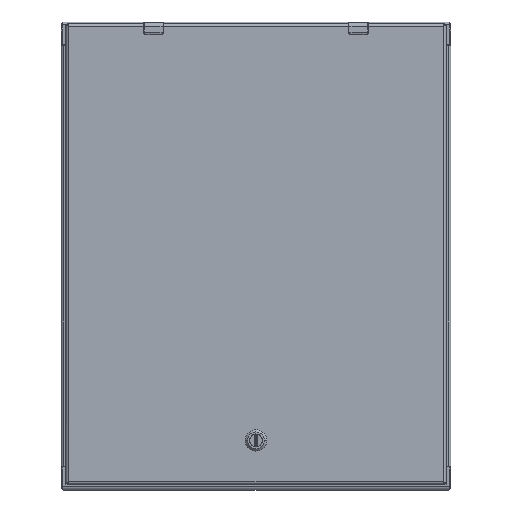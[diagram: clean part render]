
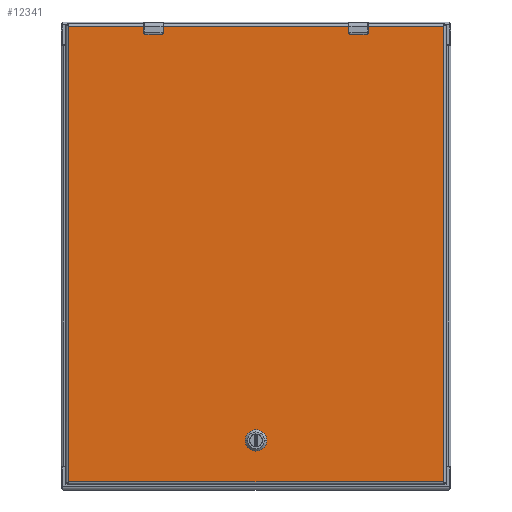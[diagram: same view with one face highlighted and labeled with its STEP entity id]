
A CAD part, top view. The second image highlights one B-rep face of the part: STEP entity #12341.
In plain terms, the highlighted planar face has unit normal (0, 0, 1).
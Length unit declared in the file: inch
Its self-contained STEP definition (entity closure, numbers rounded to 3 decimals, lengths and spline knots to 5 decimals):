
#9584=CARTESIAN_POINT('',(9.5625,0.,0.));
#9585=DIRECTION('',(0.,0.,1.));
#9586=DIRECTION('',(-0.448,0.894,0.));
#9587=AXIS2_PLACEMENT_3D('',#9584,#9585,#9586);
#9592=DIRECTION('',(0.,-1.,0.));
#9593=VECTOR('',#9592,0.39715);
#9594=CARTESIAN_POINT('',(9.1665,0.19858,0.));
#9595=LINE('',#9594,#9593);
#9599=CARTESIAN_POINT('',(9.5625,0.,0.));
#9600=DIRECTION('',(0.,0.,1.));
#9601=DIRECTION('',(-0.894,-0.448,0.));
#9602=AXIS2_PLACEMENT_3D('',#9599,#9600,#9601);
#9607=DIRECTION('',(1.,0.,0.));
#9608=VECTOR('',#9607,0.39715);
#9609=CARTESIAN_POINT('',(9.36392,-0.396,0.));
#9610=LINE('',#9609,#9608);
#9614=CARTESIAN_POINT('',(9.5625,0.,0.));
#9615=DIRECTION('',(0.,0.,1.));
#9616=DIRECTION('',(0.448,-0.894,0.));
#9617=AXIS2_PLACEMENT_3D('',#9614,#9615,#9616);
#9622=DIRECTION('',(0.,1.,0.));
#9623=VECTOR('',#9622,0.39715);
#9624=CARTESIAN_POINT('',(9.9585,-0.19858,0.));
#9625=LINE('',#9624,#9623);
#9629=CARTESIAN_POINT('',(9.5625,0.,0.));
#9630=DIRECTION('',(0.,0.,1.));
#9631=DIRECTION('',(0.894,0.448,0.));
#9632=AXIS2_PLACEMENT_3D('',#9629,#9630,#9631);
#9637=DIRECTION('',(-1.,0.,0.));
#9638=VECTOR('',#9637,0.39715);
#9639=CARTESIAN_POINT('',(9.76108,0.396,0.));
#9640=LINE('',#9639,#9638);
#9644=DIRECTION('',(1.,0.,0.));
#9645=VECTOR('',#9644,0.34892);
#9646=CARTESIAN_POINT('',(-11.6775,-5.595,0.));
#9647=LINE('',#9646,#9645);
#9651=DIRECTION('',(0.,1.,0.));
#9652=VECTOR('',#9651,0.63);
#9653=CARTESIAN_POINT('',(-11.29858,-5.565,0.));
#9654=LINE('',#9653,#9652);
#9658=DIRECTION('',(1.,0.,0.));
#9659=VECTOR('',#9658,0.34892);
#9660=CARTESIAN_POINT('',(-11.6775,-4.905,0.));
#9661=LINE('',#9660,#9659);
#9665=DIRECTION('',(1.,0.,0.));
#9666=VECTOR('',#9665,0.34892);
#9667=CARTESIAN_POINT('',(-11.6775,4.905,0.));
#9668=LINE('',#9667,#9666);
#9672=DIRECTION('',(0.,1.,0.));
#9673=VECTOR('',#9672,0.63);
#9674=CARTESIAN_POINT('',(-11.29858,4.935,0.));
#9675=LINE('',#9674,#9673);
#9679=DIRECTION('',(1.,0.,0.));
#9680=VECTOR('',#9679,0.34892);
#9681=CARTESIAN_POINT('',(-11.6775,5.595,0.));
#9682=LINE('',#9681,#9680);
#10135=CARTESIAN_POINT('',(-11.32858,-4.935,0.));
#10136=DIRECTION('',(0.,0.,-1.));
#10137=DIRECTION('',(0.,1.,0.));
#10138=AXIS2_PLACEMENT_3D('',#10135,#10136,#10137);
#10165=CARTESIAN_POINT('',(-11.32858,-5.565,0.));
#10166=DIRECTION('',(0.,0.,-1.));
#10167=DIRECTION('',(1.,0.,0.));
#10168=AXIS2_PLACEMENT_3D('',#10165,#10166,#10167);
#10218=DIRECTION('',(0.,1.,0.));
#10219=VECTOR('',#10218,9.81);
#10220=CARTESIAN_POINT('',(-11.6775,-4.905,0.));
#10221=LINE('',#10220,#10219);
#10245=DIRECTION('',(0.,1.,0.));
#10246=VECTOR('',#10245,4.02);
#10247=CARTESIAN_POINT('',(-11.6775,5.595,0.));
#10248=LINE('',#10247,#10246);
#10302=DIRECTION('',(0.,1.,0.));
#10303=VECTOR('',#10302,4.02);
#10304=CARTESIAN_POINT('',(-11.6775,-9.615,0.));
#10305=LINE('',#10304,#10303);
#10965=CARTESIAN_POINT('',(-11.32858,4.935,0.));
#10966=DIRECTION('',(0.,0.,-1.));
#10967=DIRECTION('',(1.,0.,0.));
#10968=AXIS2_PLACEMENT_3D('',#10965,#10966,#10967);
#10995=CARTESIAN_POINT('',(-11.32858,5.565,0.));
#10996=DIRECTION('',(0.,0.,-1.));
#10997=DIRECTION('',(0.,1.,0.));
#10998=AXIS2_PLACEMENT_3D('',#10995,#10996,#10997);
#11651=DIRECTION('',(-1.,0.,0.));
#11652=VECTOR('',#11651,23.355);
#11653=CARTESIAN_POINT('',(11.6775,-9.615,0.));
#11654=LINE('',#11653,#11652);
#11705=DIRECTION('',(0.,-1.,0.));
#11706=VECTOR('',#11705,19.23);
#11707=CARTESIAN_POINT('',(11.6775,9.615,0.));
#11708=LINE('',#11707,#11706);
#11848=DIRECTION('',(1.,0.,0.));
#11849=VECTOR('',#11848,23.355);
#11850=CARTESIAN_POINT('',(-11.6775,9.615,0.));
#11851=LINE('',#11850,#11849);
#11916=CARTESIAN_POINT('',(11.6775,9.615,0.));
#11917=CARTESIAN_POINT('',(11.6775,-9.615,0.));
#11918=VERTEX_POINT('',#11916);
#11919=VERTEX_POINT('',#11917);
#12004=CARTESIAN_POINT('',(9.36392,0.396,0.));
#12005=CARTESIAN_POINT('',(9.1665,0.19858,0.));
#12006=VERTEX_POINT('',#12004);
#12007=VERTEX_POINT('',#12005);
#12008=CARTESIAN_POINT('',(9.1665,-0.19858,0.));
#12009=VERTEX_POINT('',#12008);
#12010=CARTESIAN_POINT('',(9.36392,-0.396,0.));
#12011=VERTEX_POINT('',#12010);
#12012=CARTESIAN_POINT('',(9.76108,-0.396,0.));
#12013=VERTEX_POINT('',#12012);
#12014=CARTESIAN_POINT('',(9.9585,-0.19858,0.));
#12015=VERTEX_POINT('',#12014);
#12016=CARTESIAN_POINT('',(9.9585,0.19858,0.));
#12017=VERTEX_POINT('',#12016);
#12018=CARTESIAN_POINT('',(9.76108,0.396,0.));
#12019=VERTEX_POINT('',#12018);
#12109=CARTESIAN_POINT('',(-11.6775,9.615,0.));
#12111=VERTEX_POINT('',#12109);
#12116=CARTESIAN_POINT('',(-11.6775,-9.615,0.));
#12118=VERTEX_POINT('',#12116);
#12188=CARTESIAN_POINT('',(-11.6775,4.905,0.));
#12190=VERTEX_POINT('',#12188);
#12192=CARTESIAN_POINT('',(-11.6775,5.595,0.));
#12194=VERTEX_POINT('',#12192);
#12204=CARTESIAN_POINT('',(-11.6775,-5.595,0.));
#12206=VERTEX_POINT('',#12204);
#12208=CARTESIAN_POINT('',(-11.6775,-4.905,0.));
#12210=VERTEX_POINT('',#12208);
#12220=CARTESIAN_POINT('',(-11.32858,5.595,0.));
#12222=VERTEX_POINT('',#12220);
#12224=CARTESIAN_POINT('',(-11.29858,5.565,0.));
#12226=VERTEX_POINT('',#12224);
#12228=CARTESIAN_POINT('',(-11.29858,4.935,0.));
#12230=VERTEX_POINT('',#12228);
#12232=CARTESIAN_POINT('',(-11.32858,4.905,0.));
#12234=VERTEX_POINT('',#12232);
#12252=CARTESIAN_POINT('',(-11.32858,-4.905,0.));
#12254=VERTEX_POINT('',#12252);
#12256=CARTESIAN_POINT('',(-11.29858,-4.935,0.));
#12258=VERTEX_POINT('',#12256);
#12260=CARTESIAN_POINT('',(-11.29858,-5.565,0.));
#12262=VERTEX_POINT('',#12260);
#12264=CARTESIAN_POINT('',(-11.32858,-5.595,0.));
#12266=VERTEX_POINT('',#12264);
#12284=CARTESIAN_POINT('',(0.,0.,0.));
#12285=DIRECTION('',(0.,0.,-1.));
#12286=DIRECTION('',(1.,0.,0.));
#12287=AXIS2_PLACEMENT_3D('',#12284,#12285,#12286);
#12288=PLANE('',#12287);
#12290=ORIENTED_EDGE('',*,*,#12289,.T.);
#12292=ORIENTED_EDGE('',*,*,#12291,.T.);
#12294=ORIENTED_EDGE('',*,*,#12293,.T.);
#12296=ORIENTED_EDGE('',*,*,#12295,.F.);
#12298=ORIENTED_EDGE('',*,*,#12297,.T.);
#12300=ORIENTED_EDGE('',*,*,#12299,.F.);
#12302=ORIENTED_EDGE('',*,*,#12301,.F.);
#12304=ORIENTED_EDGE('',*,*,#12303,.T.);
#12306=ORIENTED_EDGE('',*,*,#12305,.T.);
#12308=ORIENTED_EDGE('',*,*,#12307,.F.);
#12310=ORIENTED_EDGE('',*,*,#12309,.T.);
#12312=ORIENTED_EDGE('',*,*,#12311,.F.);
#12314=ORIENTED_EDGE('',*,*,#12313,.F.);
#12316=ORIENTED_EDGE('',*,*,#12315,.T.);
#12318=ORIENTED_EDGE('',*,*,#12317,.T.);
#12320=ORIENTED_EDGE('',*,*,#12319,.T.);
#12321=EDGE_LOOP('',(#12290,#12292,#12294,#12296,#12298,#12300,#12302,#12304,
#12306,#12308,#12310,#12312,#12314,#12316,#12318,#12320));
#12322=FACE_OUTER_BOUND('',#12321,.F.);
#12324=ORIENTED_EDGE('',*,*,#12323,.T.);
#12326=ORIENTED_EDGE('',*,*,#12325,.T.);
#12328=ORIENTED_EDGE('',*,*,#12327,.T.);
#12330=ORIENTED_EDGE('',*,*,#12329,.T.);
#12332=ORIENTED_EDGE('',*,*,#12331,.T.);
#12334=ORIENTED_EDGE('',*,*,#12333,.T.);
#12336=ORIENTED_EDGE('',*,*,#12335,.T.);
#12338=ORIENTED_EDGE('',*,*,#12337,.T.);
#12339=EDGE_LOOP('',(#12324,#12326,#12328,#12330,#12332,#12334,#12336,#12338));
#12340=FACE_BOUND('',#12339,.F.);
#9588=CIRCLE('',#9587,0.443);
#9603=CIRCLE('',#9602,0.443);
#9618=CIRCLE('',#9617,0.443);
#9633=CIRCLE('',#9632,0.443);
#10139=CIRCLE('',#10138,0.03);
#10169=CIRCLE('',#10168,0.03);
#10969=CIRCLE('',#10968,0.03);
#10999=CIRCLE('',#10998,0.03);
#12289=EDGE_CURVE('',#11919,#12118,#11654,.T.);
#12291=EDGE_CURVE('',#12118,#12206,#10305,.T.);
#12293=EDGE_CURVE('',#12206,#12266,#9647,.T.);
#12295=EDGE_CURVE('',#12262,#12266,#10169,.T.);
#12297=EDGE_CURVE('',#12262,#12258,#9654,.T.);
#12299=EDGE_CURVE('',#12254,#12258,#10139,.T.);
#12301=EDGE_CURVE('',#12210,#12254,#9661,.T.);
#12303=EDGE_CURVE('',#12210,#12190,#10221,.T.);
#12305=EDGE_CURVE('',#12190,#12234,#9668,.T.);
#12307=EDGE_CURVE('',#12230,#12234,#10969,.T.);
#12309=EDGE_CURVE('',#12230,#12226,#9675,.T.);
#12311=EDGE_CURVE('',#12222,#12226,#10999,.T.);
#12313=EDGE_CURVE('',#12194,#12222,#9682,.T.);
#12315=EDGE_CURVE('',#12194,#12111,#10248,.T.);
#12317=EDGE_CURVE('',#12111,#11918,#11851,.T.);
#12319=EDGE_CURVE('',#11918,#11919,#11708,.T.);
#12323=EDGE_CURVE('',#12006,#12007,#9588,.T.);
#12325=EDGE_CURVE('',#12007,#12009,#9595,.T.);
#12327=EDGE_CURVE('',#12009,#12011,#9603,.T.);
#12329=EDGE_CURVE('',#12011,#12013,#9610,.T.);
#12331=EDGE_CURVE('',#12013,#12015,#9618,.T.);
#12333=EDGE_CURVE('',#12015,#12017,#9625,.T.);
#12335=EDGE_CURVE('',#12017,#12019,#9633,.T.);
#12337=EDGE_CURVE('',#12019,#12006,#9640,.T.);
#12341=ADVANCED_FACE('',(#12322,#12340),#12288,.F.);
